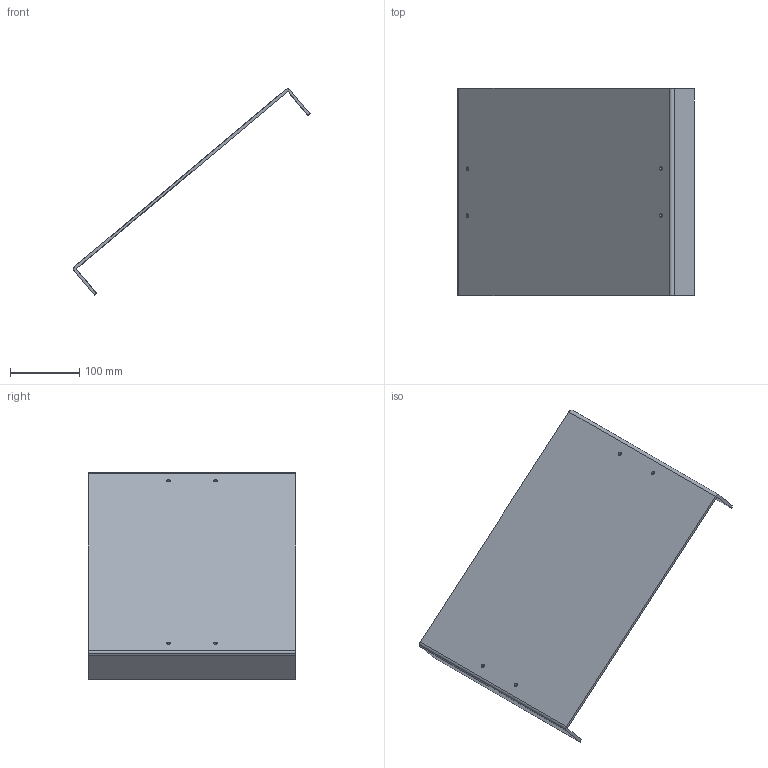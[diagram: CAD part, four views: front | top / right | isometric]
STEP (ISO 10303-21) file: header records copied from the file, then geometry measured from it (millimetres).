
FILE_DESCRIPTION(('HOOPS Exchange Step'),'2;1');
FILE_NAME('/private/var/mobile/Containers/Data/Application/E4481369-A8C6-45C6-A958-B1853E49479D/tmp/export/temp_export','2021-04-12T21:28:53+00:00',('mobile'),('Shapr3D Limited'),'HOOPS Exchange 2020.2','Shapr3D','Authorized');
FILE_SCHEMA( ('AP203_CONFIGURATION_CONTROLLED_3D_DESIGN_OF_MECHANICAL_PARTS_AND_ASSEMBLIES_MIM_LF') );
Length unit declared in the file: millimetre
Products named in the file (2): 0; /private/var/mobile/Containers/Data/Application/E4481369-A8C6-45C6-A958-B1853E49479D/tmp/4C43BF74-7B56-4F50-8AAD-C914CDC536B2.tmp
Assembly tree (1 placements, depth 2):
  /private/var/mobile/Containers/Data/Application/E4481369-A8C6-45C6-A958-B1853E49479D/tmp/4C43BF74-7B56-4F50-8AAD-C914CDC536B2.tmp
    0
Bounding box: 342.64 x 300 x 298.52 mm (x, y, z)
Volume: 596592.3 mm3; surface area: 304919.9 mm2
Topology: 1 solids, 1 shells, 24 faces, 70 edges, 48 vertices
Faces by surface type: cylinder 14, plane 10
Full cylindrical faces by diameter (mm): 5 x4
Entity records: 881 total; most frequent: DIRECTION 156, CARTESIAN_POINT 145, ORIENTED_EDGE 140, EDGE_CURVE 70, AXIS2_PLACEMENT_3D 59, VERTEX_POINT 48, VECTOR 38, LINE 38
